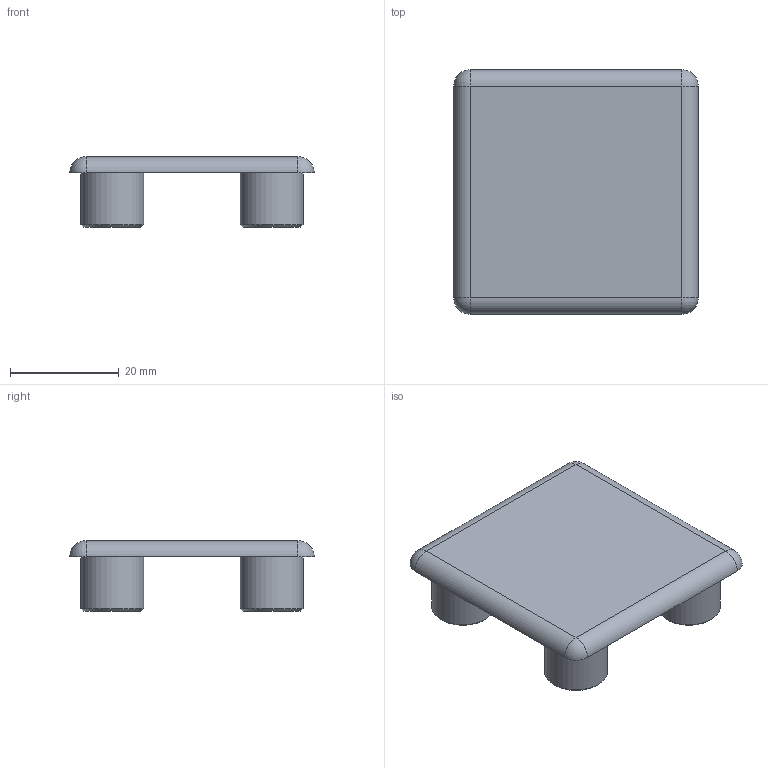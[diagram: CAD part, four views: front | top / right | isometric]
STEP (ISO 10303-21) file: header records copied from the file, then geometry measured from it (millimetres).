
FILE_DESCRIPTION (( 'STEP AP214' ), '1' );
FILE_NAME ('SL01005.step', '2024-12-03T16:30:04', ( '' ), ( '' ), 'SwSTEP 2.0', 'SolidWorks 2023', '' );
FILE_SCHEMA (( 'AUTOMOTIVE_DESIGN' ));
Length unit declared in the file: millimetre
Products named in the file (1): SL01005
Bounding box: 45 x 45 x 13 mm (x, y, z)
Volume: 6790.2 mm3; surface area: 7000.6 mm2
Topology: 1 solids, 1 shells, 32 faces, 63 edges, 38 vertices
Faces by surface type: cylinder 13, plane 11, sphere 4, cone 4
Full cylindrical faces by diameter (mm): 1 x1, 10 x4, 11.6 x4
Entity records: 727 total; most frequent: DIRECTION 142, CARTESIAN_POINT 109, ORIENTED_EDGE 84, AXIS2_PLACEMENT_3D 67, EDGE_LOOP 54, EDGE_CURVE 42, FACE_OUTER_BOUND 41, CIRCLE 34
